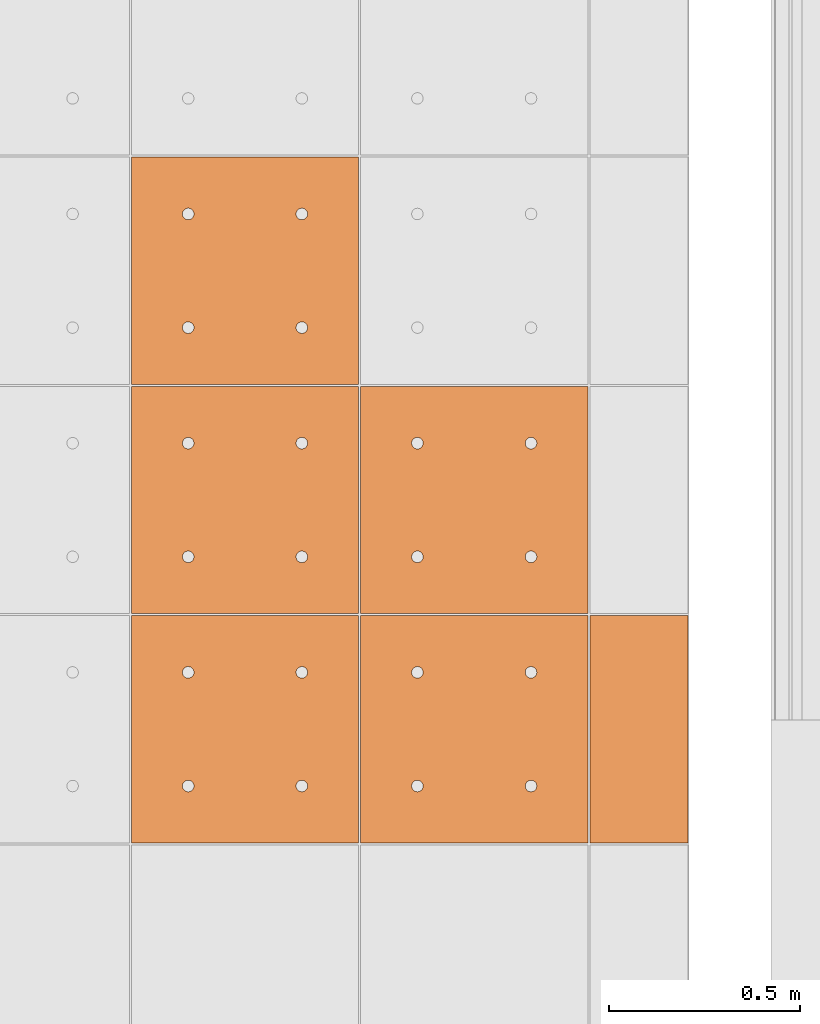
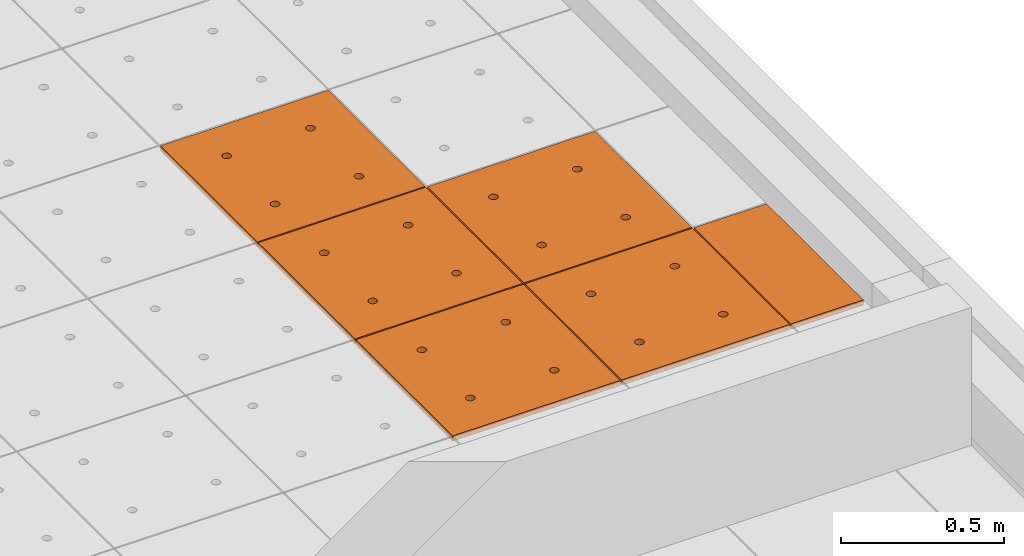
# One storey, part 225 of 338: 6 proxies, 1 element without a shape of its own.
"""IFC2X3 building model written with IfcOpenShell, lengths in millimetres."""

from ifc_helpers import new_model, entity, si_unit, converted_unit, derived_unit, money_unit, direction, frame, origin_with_axes, place, context, subcontext, project, spatial, faceted_brep, source, transform, mapped, material, type_object, type_shapes, element, aggregate, save


model = new_model("IFC2X3")

# Units and contexts
model_context = context("Model", 3, precision=0.01, world=origin_with_axes(), true_north=direction((0.0, 1.0)))
plan_context = context("Plan", 3, precision=0.01, world=origin_with_axes(), true_north=direction((0.0, 1.0)))
body_context = subcontext(model_context, "Body", "Model", "MODEL_VIEW")
ifc_project = project(units=[si_unit("LENGTHUNIT", "METRE", prefix="MILLI"), si_unit("AREAUNIT", "SQUARE_METRE"), si_unit("VOLUMEUNIT", "CUBIC_METRE"), converted_unit("PLANEANGLEUNIT", "DEGREE", entity("IfcPlaneAngleMeasure", 0.0174532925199), si_unit("PLANEANGLEUNIT", "RADIAN"), dimensions=[0, 0, 0, 0, 0, 0, 0]), money_unit("EUR"), converted_unit("TIMEUNIT", "Year", entity("IfcTimeMeasure", 31556926.0), si_unit("TIMEUNIT", "SECOND"), dimensions=[0, 0, 1, 0, 0, 0, 0]), si_unit("MASSUNIT", "GRAM", prefix="KILO"), si_unit("THERMODYNAMICTEMPERATUREUNIT", "DEGREE_CELSIUS"), si_unit("LUMINOUSINTENSITYUNIT", "LUMEN"), si_unit("ENERGYUNIT", "JOULE", prefix="MEGA"), derived_unit("THERMALCONDUCTANCEUNIT", [(si_unit("POWERUNIT", "WATT"), 1), (si_unit("LENGTHUNIT", "METRE"), -1), (si_unit("THERMODYNAMICTEMPERATUREUNIT", "KELVIN"), -1)]), derived_unit("SPECIFICHEATCAPACITYUNIT", [(si_unit("ENERGYUNIT", "JOULE"), 1), (si_unit("MASSUNIT", "GRAM", prefix="KILO"), -1), (si_unit("THERMODYNAMICTEMPERATUREUNIT", "KELVIN"), -1)]), derived_unit("MASSDENSITYUNIT", [(si_unit("MASSUNIT", "GRAM", prefix="KILO"), 1), (si_unit("VOLUMEUNIT", "CUBIC_METRE"), -1)])], contexts=[model_context, plan_context])

# Site, building, storey
site_placement = place(None, origin_with_axes())
site = spatial("IfcSite", under=ifc_project, at=site_placement, Name="Fortuinstraat Woensdrecht", CompositionType="ELEMENT")
building_placement = place(site_placement, origin_with_axes())
building = spatial("IfcBuilding", under=site, at=building_placement, Name="IKC Fortuna", CompositionType="ELEMENT")
storey_placement = place(building_placement, origin_with_axes())
storey = spatial("IfcBuildingStorey", under=building, at=storey_placement, Name="00 begane grond", CompositionType="ELEMENT", Elevation=0.0)

# Covering, proxies
covering_type = type_object("IfcCoveringType", Name="Curtain Wall Type", PredefinedType="CEILING")
covering_placement = place(storey_placement, frame((31656.9226967, 15748.5304598, 3210.0), z_axis=(0.0, 0.0, 1.0), x_axis=(1.0, 0.0, 0.0)))
covering = element("IfcCovering", 1, at=covering_placement, inside=storey, type_object=covering_type, Name="45_Plafondafwerking_P01", PredefinedType="CEILING")
ifc_material = material(Name="Gipsplaat")
building_element_proxy_type_1 = type_object("IfcBuildingElementProxyType", Name="Main Panel 600 x 600 x 20", PredefinedType="NOTDEFINED")
shared_shape_1 = source(origin_with_axes(), body_context, "Body", "Brep", [
    faceted_brep([(2.49999999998, 2.49999999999, -10.0), (300.0, 2.49999999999, -10.0), (300.0, 2.49999999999, 10.0), (2.49999999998, 2.49999999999, 10.0), (2.49999999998, 300.0, -10.0), (2.49999999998, 597.5, -10.0), (300.0, 597.5, -10.0), (597.5, 597.5, -10.0), (597.5, 300.0, -10.0), (597.5, 2.49999999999, -10.0), (166.25, 450.06232995, -10.0), (165.79423259, 452.64711538, -10.0), (164.896546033, 455.11348892, -10.0), (163.58421608, 457.38651108, -10.0), (161.897117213, 459.39711721, -10.0), (159.886511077, 461.08421608, -10.0), (157.613488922, 462.39654603, -10.0), (155.147115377, 463.29423259, -10.0), (152.562329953, 463.75, -10.0), (149.937670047, 463.75, -10.0), (147.352884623, 463.29423259, -10.0), (144.886511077, 462.39654603, -10.0), (142.613488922, 461.08421608, -10.0), (140.602882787, 459.39711721, -10.0), (138.91578392, 457.38651108, -10.0), (137.603453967, 455.11348892, -10.0), (136.705767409, 452.64711538, -10.0), (136.25, 450.06232995, -10.0), (136.25, 448.75, -10.0), (136.25, 447.43767005, -10.0), (136.705767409, 444.85288462, -10.0), (137.603453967, 442.38651108, -10.0), (138.91578392, 440.11348892, -10.0), (140.602882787, 438.10288279, -10.0), (142.613488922, 436.41578392, -10.0), (144.886511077, 435.10345397, -10.0), (147.352884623, 434.20576741, -10.0), (149.937670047, 433.75, -10.0), (152.562329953, 433.75, -10.0), (155.147115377, 434.20576741, -10.0), (157.613488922, 435.10345397, -10.0), (159.886511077, 436.41578392, -10.0), (161.897117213, 438.10288279, -10.0), (163.58421608, 440.11348892, -10.0), (164.896546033, 442.38651108, -10.0), (165.79423259, 444.85288462, -10.0), (166.25, 447.43767005, -10.0), (463.75, 450.06232995, -10.0), (463.29423259, 452.64711538, -10.0), (462.396546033, 455.11348892, -10.0), (461.08421608, 457.38651108, -10.0), (459.397117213, 459.39711721, -10.0), (457.386511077, 461.08421608, -10.0), (455.113488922, 462.39654603, -10.0), (452.647115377, 463.29423259, -10.0), (450.062329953, 463.75, -10.0), (447.437670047, 463.75, -10.0), (444.852884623, 463.29423259, -10.0), (442.386511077, 462.39654603, -10.0), (440.113488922, 461.08421608, -10.0), (438.102882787, 459.39711721, -10.0), (436.41578392, 457.38651108, -10.0), (435.103453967, 455.11348892, -10.0), (434.205767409, 452.64711538, -10.0), (433.75, 450.06232995, -10.0), (433.75, 448.75, -10.0), (433.75, 447.43767005, -10.0), (434.205767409, 444.85288462, -10.0), (435.103453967, 442.38651108, -10.0), (436.41578392, 440.11348892, -10.0), (438.102882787, 438.10288279, -10.0), (440.113488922, 436.41578392, -10.0), (442.386511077, 435.10345397, -10.0), (444.852884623, 434.20576741, -10.0), (447.437670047, 433.75, -10.0), (450.062329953, 433.75, -10.0), (452.647115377, 434.20576741, -10.0), (455.113488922, 435.10345397, -10.0), (457.386511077, 436.41578392, -10.0), (459.397117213, 438.10288279, -10.0), (461.08421608, 440.11348892, -10.0), (462.396546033, 442.38651108, -10.0), (463.29423259, 444.85288462, -10.0), (463.75, 447.43767005, -10.0), (463.75, 152.56232995, -10.0), (463.29423259, 155.14711538, -10.0), (462.396546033, 157.61348892, -10.0), (461.08421608, 159.88651108, -10.0), (459.397117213, 161.89711721, -10.0), (457.386511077, 163.58421608, -10.0), (455.113488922, 164.89654603, -10.0), (452.647115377, 165.79423259, -10.0), (450.062329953, 166.25, -10.0), (447.437670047, 166.25, -10.0), (444.852884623, 165.79423259, -10.0), (442.386511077, 164.89654603, -10.0), (440.113488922, 163.58421608, -10.0), (438.102882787, 161.89711721, -10.0), (436.41578392, 159.88651108, -10.0), (435.103453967, 157.61348892, -10.0), (434.205767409, 155.14711538, -10.0), (433.75, 152.56232995, -10.0), (433.75, 151.25, -10.0), (433.75, 149.93767005, -10.0), (434.205767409, 147.35288462, -10.0), (435.103453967, 144.88651108, -10.0), (436.41578392, 142.61348892, -10.0), (438.102882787, 140.60288279, -10.0), (440.113488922, 138.91578392, -10.0), (442.386511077, 137.60345397, -10.0), (444.852884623, 136.70576741, -10.0), (447.437670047, 136.25, -10.0), (450.062329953, 136.25, -10.0), (452.647115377, 136.70576741, -10.0), (455.113488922, 137.60345397, -10.0), (457.386511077, 138.91578392, -10.0), (459.397117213, 140.60288279, -10.0), (461.08421608, 142.61348892, -10.0), (462.396546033, 144.88651108, -10.0), (463.29423259, 147.35288462, -10.0), (463.75, 149.93767005, -10.0), (166.25, 152.56232995, -10.0), (165.79423259, 155.14711538, -10.0), (164.896546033, 157.61348892, -10.0), (163.58421608, 159.88651108, -10.0), (161.897117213, 161.89711721, -10.0), (159.886511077, 163.58421608, -10.0), (157.613488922, 164.89654603, -10.0), (155.147115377, 165.79423259, -10.0), (152.562329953, 166.25, -10.0), (149.937670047, 166.25, -10.0), (147.352884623, 165.79423259, -10.0), (144.886511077, 164.89654603, -10.0), (142.613488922, 163.58421608, -10.0), (140.602882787, 161.89711721, -10.0), (138.91578392, 159.88651108, -10.0), (137.603453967, 157.61348892, -10.0), (136.705767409, 155.14711538, -10.0), (136.25, 152.56232995, -10.0), (136.25, 151.25, -10.0), (136.25, 149.93767005, -10.0), (136.705767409, 147.35288462, -10.0), (137.603453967, 144.88651108, -10.0), (138.91578392, 142.61348892, -10.0), (140.602882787, 140.60288279, -10.0), (142.613488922, 138.91578392, -10.0), (144.886511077, 137.60345397, -10.0), (147.352884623, 136.70576741, -10.0), (149.937670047, 136.25, -10.0), (152.562329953, 136.25, -10.0), (155.147115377, 136.70576741, -10.0), (157.613488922, 137.60345397, -10.0), (159.886511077, 138.91578392, -10.0), (161.897117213, 140.60288279, -10.0), (163.58421608, 142.61348892, -10.0), (164.896546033, 144.88651108, -10.0), (165.79423259, 147.35288462, -10.0), (166.25, 149.93767005, -10.0), (597.5, 2.49999999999, 10.0), (597.5, 300.0, 10.0), (597.5, 597.5, 10.0), (300.0, 597.5, 10.0), (2.49999999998, 597.5, 10.0), (2.49999999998, 300.0, 10.0), (166.25, 450.06232995, 10.0), (166.25, 447.43767005, 10.0), (165.79423259, 444.85288462, 10.0), (164.896546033, 442.38651108, 10.0), (163.58421608, 440.11348892, 10.0), (161.897117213, 438.10288279, 10.0), (159.886511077, 436.41578392, 10.0), (157.613488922, 435.10345397, 10.0), (155.147115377, 434.20576741, 10.0), (152.562329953, 433.75, 10.0), (149.937670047, 433.75, 10.0), (147.352884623, 434.20576741, 10.0), (144.886511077, 435.10345397, 10.0), (142.613488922, 436.41578392, 10.0), (140.602882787, 438.10288279, 10.0), (138.91578392, 440.11348892, 10.0), (137.603453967, 442.38651108, 10.0), (136.705767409, 444.85288462, 10.0), (136.25, 447.43767005, 10.0), (136.25, 448.75, 10.0), (136.25, 450.06232995, 10.0), (136.705767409, 452.64711538, 10.0), (137.603453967, 455.11348892, 10.0), (138.91578392, 457.38651108, 10.0), (140.602882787, 459.39711721, 10.0), (142.613488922, 461.08421608, 10.0), (144.886511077, 462.39654603, 10.0), (147.352884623, 463.29423259, 10.0), (149.937670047, 463.75, 10.0), (152.562329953, 463.75, 10.0), (155.147115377, 463.29423259, 10.0), (157.613488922, 462.39654603, 10.0), (159.886511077, 461.08421608, 10.0), (161.897117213, 459.39711721, 10.0), (163.58421608, 457.38651108, 10.0), (164.896546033, 455.11348892, 10.0), (165.79423259, 452.64711538, 10.0), (463.75, 450.06232995, 10.0), (463.75, 447.43767005, 10.0), (463.29423259, 444.85288462, 10.0), (462.396546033, 442.38651108, 10.0), (461.08421608, 440.11348892, 10.0), (459.397117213, 438.10288279, 10.0), (457.386511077, 436.41578392, 10.0), (455.113488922, 435.10345397, 10.0), (452.647115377, 434.20576741, 10.0), (450.062329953, 433.75, 10.0), (447.437670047, 433.75, 10.0), (444.852884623, 434.20576741, 10.0), (442.386511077, 435.10345397, 10.0), (440.113488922, 436.41578392, 10.0), (438.102882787, 438.10288279, 10.0), (436.41578392, 440.11348892, 10.0), (435.103453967, 442.38651108, 10.0), (434.205767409, 444.85288462, 10.0), (433.75, 447.43767005, 10.0), (433.75, 448.75, 10.0), (433.75, 450.06232995, 10.0), (434.205767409, 452.64711538, 10.0), (435.103453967, 455.11348892, 10.0), (436.41578392, 457.38651108, 10.0), (438.102882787, 459.39711721, 10.0), (440.113488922, 461.08421608, 10.0), (442.386511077, 462.39654603, 10.0), (444.852884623, 463.29423259, 10.0), (447.437670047, 463.75, 10.0), (450.062329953, 463.75, 10.0), (452.647115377, 463.29423259, 10.0), (455.113488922, 462.39654603, 10.0), (457.386511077, 461.08421608, 10.0), (459.397117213, 459.39711721, 10.0), (461.08421608, 457.38651108, 10.0), (462.396546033, 455.11348892, 10.0), (463.29423259, 452.64711538, 10.0), (463.75, 152.56232995, 10.0), (463.75, 149.93767005, 10.0), (463.29423259, 147.35288462, 10.0), (462.396546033, 144.88651108, 10.0), (461.08421608, 142.61348892, 10.0), (459.397117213, 140.60288279, 10.0), (457.386511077, 138.91578392, 10.0), (455.113488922, 137.60345397, 10.0), (452.647115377, 136.70576741, 10.0), (450.062329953, 136.25, 10.0), (447.437670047, 136.25, 10.0), (444.852884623, 136.70576741, 10.0), (442.386511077, 137.60345397, 10.0), (440.113488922, 138.91578392, 10.0), (438.102882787, 140.60288279, 10.0), (436.41578392, 142.61348892, 10.0), (435.103453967, 144.88651108, 10.0), (434.205767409, 147.35288462, 10.0), (433.75, 149.93767005, 10.0), (433.75, 151.25, 10.0), (433.75, 152.56232995, 10.0), (434.205767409, 155.14711538, 10.0), (435.103453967, 157.61348892, 10.0), (436.41578392, 159.88651108, 10.0), (438.102882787, 161.89711721, 10.0), (440.113488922, 163.58421608, 10.0), (442.386511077, 164.89654603, 10.0), (444.852884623, 165.79423259, 10.0), (447.437670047, 166.25, 10.0), (450.062329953, 166.25, 10.0), (452.647115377, 165.79423259, 10.0), (455.113488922, 164.89654603, 10.0), (457.386511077, 163.58421608, 10.0), (459.397117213, 161.89711721, 10.0), (461.08421608, 159.88651108, 10.0), (462.396546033, 157.61348892, 10.0), (463.29423259, 155.14711538, 10.0), (166.25, 152.56232995, 10.0), (166.25, 149.93767005, 10.0), (165.79423259, 147.35288462, 10.0), (164.896546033, 144.88651108, 10.0), (163.58421608, 142.61348892, 10.0), (161.897117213, 140.60288279, 10.0), (159.886511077, 138.91578392, 10.0), (157.613488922, 137.60345397, 10.0), (155.147115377, 136.70576741, 10.0), (152.562329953, 136.25, 10.0), (149.937670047, 136.25, 10.0), (147.352884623, 136.70576741, 10.0), (144.886511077, 137.60345397, 10.0), (142.613488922, 138.91578392, 10.0), (140.602882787, 140.60288279, 10.0), (138.91578392, 142.61348892, 10.0), (137.603453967, 144.88651108, 10.0), (136.705767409, 147.35288462, 10.0), (136.25, 149.93767005, 10.0), (136.25, 151.25, 10.0), (136.25, 152.56232995, 10.0), (136.705767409, 155.14711538, 10.0), (137.603453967, 157.61348892, 10.0), (138.91578392, 159.88651108, 10.0), (140.602882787, 161.89711721, 10.0), (142.613488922, 163.58421608, 10.0), (144.886511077, 164.89654603, 10.0), (147.352884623, 165.79423259, 10.0), (149.937670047, 166.25, 10.0), (152.562329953, 166.25, 10.0), (155.147115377, 165.79423259, 10.0), (157.613488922, 164.89654603, 10.0), (159.886511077, 163.58421608, 10.0), (161.897117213, 161.89711721, 10.0), (163.58421608, 159.88651108, 10.0), (164.896546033, 157.61348892, 10.0), (165.79423259, 155.14711538, 10.0)], [[[0, 1, 2, 3]], [[0, 4, 5, 6, 7, 8, 9, 1], [10, 11, 12, 13, 14, 15, 16, 17, 18, 19, 20, 21, 22, 23, 24, 25, 26, 27, 28, 29, 30, 31, 32, 33, 34, 35, 36, 37, 38, 39, 40, 41, 42, 43, 44, 45, 46], [47, 48, 49, 50, 51, 52, 53, 54, 55, 56, 57, 58, 59, 60, 61, 62, 63, 64, 65, 66, 67, 68, 69, 70, 71, 72, 73, 74, 75, 76, 77, 78, 79, 80, 81, 82, 83], [84, 85, 86, 87, 88, 89, 90, 91, 92, 93, 94, 95, 96, 97, 98, 99, 100, 101, 102, 103, 104, 105, 106, 107, 108, 109, 110, 111, 112, 113, 114, 115, 116, 117, 118, 119, 120], [121, 122, 123, 124, 125, 126, 127, 128, 129, 130, 131, 132, 133, 134, 135, 136, 137, 138, 139, 140, 141, 142, 143, 144, 145, 146, 147, 148, 149, 150, 151, 152, 153, 154, 155, 156, 157]], [[1, 9, 158, 2]], [[3, 2, 158, 159, 160, 161, 162, 163], [164, 165, 166, 167, 168, 169, 170, 171, 172, 173, 174, 175, 176, 177, 178, 179, 180, 181, 182, 183, 184, 185, 186, 187, 188, 189, 190, 191, 192, 193, 194, 195, 196, 197, 198, 199, 200], [201, 202, 203, 204, 205, 206, 207, 208, 209, 210, 211, 212, 213, 214, 215, 216, 217, 218, 219, 220, 221, 222, 223, 224, 225, 226, 227, 228, 229, 230, 231, 232, 233, 234, 235, 236, 237], [238, 239, 240, 241, 242, 243, 244, 245, 246, 247, 248, 249, 250, 251, 252, 253, 254, 255, 256, 257, 258, 259, 260, 261, 262, 263, 264, 265, 266, 267, 268, 269, 270, 271, 272, 273, 274], [275, 276, 277, 278, 279, 280, 281, 282, 283, 284, 285, 286, 287, 288, 289, 290, 291, 292, 293, 294, 295, 296, 297, 298, 299, 300, 301, 302, 303, 304, 305, 306, 307, 308, 309, 310, 311]], [[4, 0, 3, 163]], [[5, 4, 163, 162]], [[6, 5, 162, 161]], [[7, 6, 161, 160]], [[8, 7, 160, 159]], [[9, 8, 159, 158]], [[11, 10, 164, 200]], [[12, 11, 200, 199]], [[13, 12, 199, 198]], [[14, 13, 198, 197]], [[15, 14, 197, 196]], [[16, 15, 196, 195]], [[17, 16, 195, 194]], [[18, 17, 194, 193]], [[19, 18, 193, 192]], [[20, 19, 192, 191]], [[21, 20, 191, 190]], [[22, 21, 190, 189]], [[23, 22, 189, 188]], [[24, 23, 188, 187]], [[25, 24, 187, 186]], [[26, 25, 186, 185]], [[27, 26, 185, 184]], [[28, 27, 184, 183]], [[29, 28, 183, 182]], [[30, 29, 182, 181]], [[31, 30, 181, 180]], [[32, 31, 180, 179]], [[33, 32, 179, 178]], [[34, 33, 178, 177]], [[35, 34, 177, 176]], [[36, 35, 176, 175]], [[37, 36, 175, 174]], [[38, 37, 174, 173]], [[39, 38, 173, 172]], [[40, 39, 172, 171]], [[41, 40, 171, 170]], [[42, 41, 170, 169]], [[43, 42, 169, 168]], [[44, 43, 168, 167]], [[45, 44, 167, 166]], [[46, 45, 166, 165]], [[10, 46, 165, 164]], [[48, 47, 201, 237]], [[49, 48, 237, 236]], [[50, 49, 236, 235]], [[51, 50, 235, 234]], [[52, 51, 234, 233]], [[53, 52, 233, 232]], [[54, 53, 232, 231]], [[55, 54, 231, 230]], [[56, 55, 230, 229]], [[57, 56, 229, 228]], [[58, 57, 228, 227]], [[59, 58, 227, 226]], [[60, 59, 226, 225]], [[61, 60, 225, 224]], [[62, 61, 224, 223]], [[63, 62, 223, 222]], [[64, 63, 222, 221]], [[65, 64, 221, 220]], [[66, 65, 220, 219]], [[67, 66, 219, 218]], [[68, 67, 218, 217]], [[69, 68, 217, 216]], [[70, 69, 216, 215]], [[71, 70, 215, 214]], [[72, 71, 214, 213]], [[73, 72, 213, 212]], [[74, 73, 212, 211]], [[75, 74, 211, 210]], [[76, 75, 210, 209]], [[77, 76, 209, 208]], [[78, 77, 208, 207]], [[79, 78, 207, 206]], [[80, 79, 206, 205]], [[81, 80, 205, 204]], [[82, 81, 204, 203]], [[83, 82, 203, 202]], [[47, 83, 202, 201]], [[85, 84, 238, 274]], [[86, 85, 274, 273]], [[87, 86, 273, 272]], [[88, 87, 272, 271]], [[89, 88, 271, 270]], [[90, 89, 270, 269]], [[91, 90, 269, 268]], [[92, 91, 268, 267]], [[93, 92, 267, 266]], [[94, 93, 266, 265]], [[95, 94, 265, 264]], [[96, 95, 264, 263]], [[97, 96, 263, 262]], [[98, 97, 262, 261]], [[99, 98, 261, 260]], [[100, 99, 260, 259]], [[101, 100, 259, 258]], [[102, 101, 258, 257]], [[103, 102, 257, 256]], [[104, 103, 256, 255]], [[105, 104, 255, 254]], [[106, 105, 254, 253]], [[107, 106, 253, 252]], [[108, 107, 252, 251]], [[109, 108, 251, 250]], [[110, 109, 250, 249]], [[111, 110, 249, 248]], [[112, 111, 248, 247]], [[113, 112, 247, 246]], [[114, 113, 246, 245]], [[115, 114, 245, 244]], [[116, 115, 244, 243]], [[117, 116, 243, 242]], [[118, 117, 242, 241]], [[119, 118, 241, 240]], [[120, 119, 240, 239]], [[84, 120, 239, 238]], [[122, 121, 275, 311]], [[123, 122, 311, 310]], [[124, 123, 310, 309]], [[125, 124, 309, 308]], [[126, 125, 308, 307]], [[127, 126, 307, 306]], [[128, 127, 306, 305]], [[129, 128, 305, 304]], [[130, 129, 304, 303]], [[131, 130, 303, 302]], [[132, 131, 302, 301]], [[133, 132, 301, 300]], [[134, 133, 300, 299]], [[135, 134, 299, 298]], [[136, 135, 298, 297]], [[137, 136, 297, 296]], [[138, 137, 296, 295]], [[139, 138, 295, 294]], [[140, 139, 294, 293]], [[141, 140, 293, 292]], [[142, 141, 292, 291]], [[143, 142, 291, 290]], [[144, 143, 290, 289]], [[145, 144, 289, 288]], [[146, 145, 288, 287]], [[147, 146, 287, 286]], [[148, 147, 286, 285]], [[149, 148, 285, 284]], [[150, 149, 284, 283]], [[151, 150, 283, 282]], [[152, 151, 282, 281]], [[153, 152, 281, 280]], [[154, 153, 280, 279]], [[155, 154, 279, 278]], [[156, 155, 278, 277]], [[157, 156, 277, 276]], [[121, 157, 276, 275]]]),
])
type_shapes(building_element_proxy_type_1, [shared_shape_1])
proxy_1_placement = place(covering_placement, frame((2400.0, -3000.0, 0.0), z_axis=(0.0, 0.0, 1.0), x_axis=(1.0, 0.0, 0.0)))
proxy_1 = element("IfcBuildingElementProxy", 2, at=proxy_1_placement, type_object=building_element_proxy_type_1, material=ifc_material, Name="__600x602 Rockfon Krios", context=body_context, shape_type="MappedRepresentation", body=[
    mapped(shared_shape_1, transform((300.0, 300.0, 0.0), x_axis=(-1.0, 0.0, 0.0), y_axis=(0.0, -1.0, 0.0), z_axis=(0.0, 0.0, 1.0))),
])
proxy_2_placement = place(covering_placement, frame((1800.0, -2400.0, 0.0), z_axis=(0.0, 0.0, 1.0), x_axis=(1.0, 0.0, 0.0)))
proxy_2 = element("IfcBuildingElementProxy", 3, at=proxy_2_placement, type_object=building_element_proxy_type_1, material=ifc_material, Name="__600x711 Rockfon Krios", context=body_context, shape_type="MappedRepresentation", body=[
    mapped(shared_shape_1, transform((300.0, 300.0, 0.0), x_axis=(-1.0, 0.0, 0.0), y_axis=(0.0, -1.0, 0.0), z_axis=(0.0, 0.0, 1.0))),
])
proxy_3_placement = place(covering_placement, frame((1800.0, -3000.0, 0.0), z_axis=(0.0, 0.0, 1.0), x_axis=(1.0, 0.0, 0.0)))
proxy_3 = element("IfcBuildingElementProxy", 4, at=proxy_3_placement, type_object=building_element_proxy_type_1, material=ifc_material, Name="__600x712 Rockfon Krios", context=body_context, shape_type="MappedRepresentation", body=[
    mapped(shared_shape_1, transform((300.0, 300.0, 0.0), x_axis=(-1.0, 0.0, 0.0), y_axis=(0.0, -1.0, 0.0), z_axis=(0.0, 0.0, 1.0))),
])
proxy_4_placement = place(covering_placement, frame((1800.0, -3600.0, 0.0), z_axis=(0.0, 0.0, 1.0), x_axis=(1.0, 0.0, 0.0)))
proxy_4 = element("IfcBuildingElementProxy", 5, at=proxy_4_placement, type_object=building_element_proxy_type_1, material=ifc_material, Name="__600x713 Rockfon Krios", context=body_context, shape_type="MappedRepresentation", body=[
    mapped(shared_shape_1, transform((300.0, 300.0, 0.0), x_axis=(-1.0, 0.0, 0.0), y_axis=(0.0, -1.0, 0.0), z_axis=(0.0, 0.0, 1.0))),
])
proxy_5_placement = place(covering_placement, frame((2400.0, -3600.0, 0.0), z_axis=(0.0, 0.0, 1.0), x_axis=(1.0, 0.0, 0.0)))
proxy_5 = element("IfcBuildingElementProxy", 6, at=proxy_5_placement, type_object=building_element_proxy_type_1, material=ifc_material, Name="__600x773 Rockfon Krios", context=body_context, shape_type="MappedRepresentation", body=[
    mapped(shared_shape_1, transform((300.0, 300.0, 0.0), x_axis=(-1.0, 0.0, 0.0), y_axis=(0.0, -1.0, 0.0), z_axis=(0.0, 0.0, 1.0))),
])
building_element_proxy_type_2 = type_object("IfcBuildingElementProxyType", Name="263 x 600 x 20", PredefinedType="NOTDEFINED")
shared_shape_2 = source(origin_with_axes(), body_context, "Body", "Brep", [
    faceted_brep([(339.99569058, 2.5, -10.0), (597.5, 2.49999999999, -10.0), (597.5, 2.49999999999, 10.0), (339.99569058, 2.5, 10.0), (339.99569058, 597.5, -10.0), (597.5, 597.5, -10.0), (597.5, 597.5, 10.0), (339.99569058, 597.5, 10.0)], [[[0, 1, 2, 3]], [[0, 4, 5, 1]], [[1, 5, 6, 2]], [[3, 2, 6, 7]], [[4, 0, 3, 7]], [[5, 4, 7, 6]]]),
])
type_shapes(building_element_proxy_type_2, [shared_shape_2])
proxy_6_placement = place(covering_placement, frame((2831.25215667, -3600.0, 0.0), z_axis=(0.0, 0.0, 1.0), x_axis=(1.0, 0.0, 0.0)))
proxy_6 = element("IfcBuildingElementProxy", 7, at=proxy_6_placement, type_object=building_element_proxy_type_2, material=ifc_material, Name="__600x772 Rockfon Krios", context=body_context, shape_type="MappedRepresentation", body=[
    mapped(shared_shape_2, transform((468.747843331, 300.0, 0.0), x_axis=(-1.0, 0.0, 0.0), y_axis=(0.0, -1.0, 0.0), z_axis=(0.0, 0.0, 1.0))),
])
aggregate(covering, [proxy_1, proxy_2, proxy_3, proxy_4, proxy_6, proxy_5])

save(model, "model.ifc")
